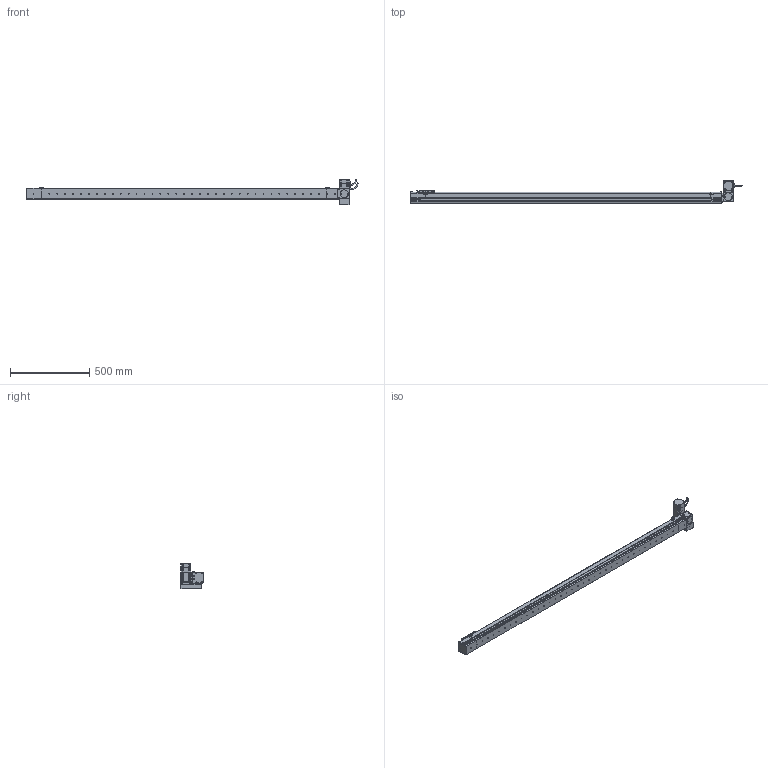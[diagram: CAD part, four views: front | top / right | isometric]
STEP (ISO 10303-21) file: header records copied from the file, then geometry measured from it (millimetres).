
FILE_DESCRIPTION (( 'STEP AP214' ), '1' );
FILE_NAME ('S07 CBN RT S1800.STEP', '2010-06-29T11:00:18', ( 'Conseil Régional Haute-Normandie' ), ( 'Conseil Régional Haute-Normandie' ), 'SwSTEP 2.0', 'SolidWorks 2010', '' );
FILE_SCHEMA (( 'AUTOMOTIVE_DESIGN' ));
Length unit declared in the file: millimetre
Products named in the file (31): P1_Default; P3 90A_Default; Rondelle de Serrage RT_Default; Support Moteur RT_Default; 60BLDC90A-640_Default; Cache Support Moteur RT_Default; P2 90A_Default; vis M5 L8_Default; support chariot_Default; chariot_Default; Chariot S07_Default; vis M5 L15_Default; plaque de serrage Tail_Default; Plaque de bout Tail_Default; Couvercle Tail_Default; Corp Tail_Default; Corp S07 S1800_Default; VisM3_Default; Conecteur2 60BLDC_Default; Couvercle S07 S1800_Default; Tail S07 Tail_Default; Conecteur 60BLDC_Default; Axe 60BLDC_Default; P4_Default; Corp RT_Default; Head RT_Default; S07 CBN RT S1800; plaque de serrage RT_Default; Plaque de bout RT_Default; Couvercle RT_Default
Assembly tree (71 placements, depth 4):
  S07 CBN RT S1800
    Corp S07 S1800_Default
      Couvercle S07 S1800_Default
      Corp S07 S1800_Default
    Tail S07 Tail_Default
      vis M5 L15_Default  x6
      Couvercle Tail_Default
      plaque de serrage Tail_Default
      Plaque de bout Tail_Default
      Corp Tail_Default
    Chariot S07_Default
      vis M5 L8_Default  x8
      support chariot_Default
      chariot_Default
    Head RT_Default
      vis M5 L15_Default  x16
      60BLDC90A-640_Default
        VisM3_Default  x12
        P2 90A_Default
        Conecteur 60BLDC_Default
        P4_Default
        P1_Default
        Axe 60BLDC_Default
        P3 90A_Default
        Conecteur2 60BLDC_Default
      Corp RT_Default
      Cache Support Moteur RT_Default
      Rondelle de Serrage RT_Default  x3
      Plaque de bout RT_Default
      Support Moteur RT_Default
      plaque de serrage RT_Default
      Couvercle RT_Default
Bounding box: 2093.2 x 141 x 162 mm (x, y, z)
Volume: 9821140.6 mm3; surface area: 1099199.9 mm2
Topology: 108 solids, 108 shells, 3958 faces, 9722 edges, 6260 vertices
Faces by surface type: plane 2272, bspline 756, cylinder 719, torus 112, cone 95, sphere 4
Entity records: 155113 total; most frequent: CARTESIAN_POINT 79877, ORIENTED_EDGE 14964, DIRECTION 11315, EDGE_CURVE 7482, VERTEX_POINT 4945, LINE 4817, VECTOR 4817, AXIS2_PLACEMENT_3D 3249
